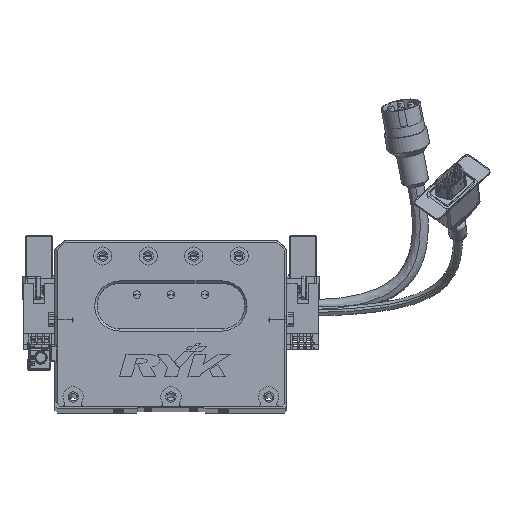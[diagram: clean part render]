
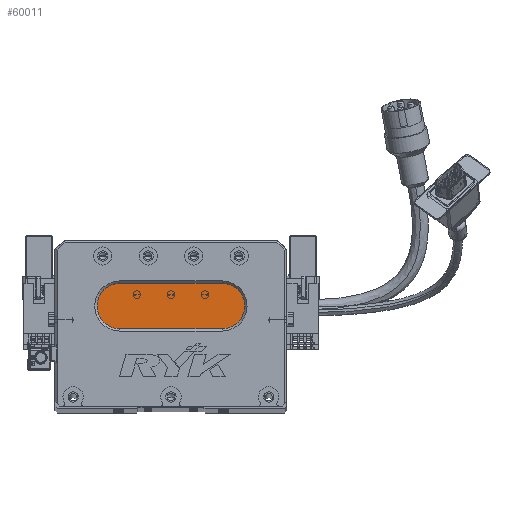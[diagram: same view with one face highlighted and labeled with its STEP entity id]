
A CAD part, top view. The second image highlights one B-rep face of the part: STEP entity #60011.
In plain terms, the highlighted planar face has unit normal (0, 0, 1) as drawn and (0, 0, -1) by its records, which use the part's own axes.
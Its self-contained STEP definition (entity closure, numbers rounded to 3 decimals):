
#1224 = DIRECTION ( 'NONE',  ( 0., 0., -1. ) ) ;
#4523 = LINE ( 'NONE', #27914, #21974 ) ;
#5595 = ORIENTED_EDGE ( 'NONE', *, *, #16332, .T. ) ;
#5930 = CARTESIAN_POINT ( 'NONE',  ( 28.5, 34., 13. ) ) ;
#7707 = LINE ( 'NONE', #38765, #65982 ) ;
#10267 = EDGE_LOOP ( 'NONE', ( #45951, #11554, #5595, #31244, #49151 ) ) ;
#10316 = DIRECTION ( 'NONE',  ( -1., 0., 0. ) ) ;
#10772 = DIRECTION ( 'NONE',  ( 0., 0., -1. ) ) ;
#11554 = ORIENTED_EDGE ( 'NONE', *, *, #42452, .T. ) ;
#13339 = FACE_OUTER_BOUND ( 'NONE', #10267, .T. ) ;
#15893 = CARTESIAN_POINT ( 'NONE',  ( 73.5, 44., 13. ) ) ;
#15922 = AXIS2_PLACEMENT_3D ( 'NONE', #15893, #31503, #31065 ) ;
#16332 = EDGE_CURVE ( 'NONE', #61725, #46531, #55336, .T. ) ;
#16988 = DIRECTION ( 'NONE',  ( -1., 0., 0. ) ) ;
#17676 = EDGE_CURVE ( 'NONE', #32326, #67173, #7707, .T. ) ;
#21644 = AXIS2_PLACEMENT_3D ( 'NONE', #59087, #1224, #16988 ) ;
#21974 = VECTOR ( 'NONE', #59998, 1000. ) ;
#22041 = PLANE ( 'NONE',  #55891 ) ;
#26694 = EDGE_CURVE ( 'NONE', #46531, #32326, #28061, .T. ) ;
#26891 = CARTESIAN_POINT ( 'NONE',  ( 73.5, 34., 13. ) ) ;
#27914 = CARTESIAN_POINT ( 'NONE',  ( 73.5, 34., 13. ) ) ;
#28061 = CIRCLE ( 'NONE', #21644, 10. ) ;
#28162 = EDGE_CURVE ( 'NONE', #67173, #43020, #52020, .T. ) ;
#28353 = DIRECTION ( 'NONE',  ( 1., 0., 0. ) ) ;
#31065 = DIRECTION ( 'NONE',  ( -1., 0., 0. ) ) ;
#31244 = ORIENTED_EDGE ( 'NONE', *, *, #26694, .T. ) ;
#31503 = DIRECTION ( 'NONE',  ( 0., 0., -1. ) ) ;
#32046 = CARTESIAN_POINT ( 'NONE',  ( 73.5, 44., 13. ) ) ;
#32326 = VERTEX_POINT ( 'NONE', #33712 ) ;
#33712 = CARTESIAN_POINT ( 'NONE',  ( 28.5, 54., 13. ) ) ;
#38765 = CARTESIAN_POINT ( 'NONE',  ( 73.5, 54., 13. ) ) ;
#41871 = CARTESIAN_POINT ( 'NONE',  ( 73.5, 54., 13. ) ) ;
#42114 = CARTESIAN_POINT ( 'NONE',  ( 18.5, 44., 13. ) ) ;
#42221 = DIRECTION ( 'NONE',  ( 0., 0., -1. ) ) ;
#42452 = EDGE_CURVE ( 'NONE', #43020, #61725, #4523, .T. ) ;
#43020 = VERTEX_POINT ( 'NONE', #26891 ) ;
#45951 = ORIENTED_EDGE ( 'NONE', *, *, #28162, .T. ) ;
#46531 = VERTEX_POINT ( 'NONE', #42114 ) ;
#47911 = AXIS2_PLACEMENT_3D ( 'NONE', #63122, #10772, #10316 ) ;
#49151 = ORIENTED_EDGE ( 'NONE', *, *, #17676, .T. ) ;
#52020 = CIRCLE ( 'NONE', #15922, 10. ) ;
#55336 = CIRCLE ( 'NONE', #47911, 10. ) ;
#55891 = AXIS2_PLACEMENT_3D ( 'NONE', #32046, #42221, #68832 ) ;
#59087 = CARTESIAN_POINT ( 'NONE',  ( 28.5, 44., 13. ) ) ;
#59998 = DIRECTION ( 'NONE',  ( -1., 0., 0. ) ) ;
#60011 = ADVANCED_FACE ( 'NONE', ( #13339 ), #22041, .T. ) ;
#61725 = VERTEX_POINT ( 'NONE', #5930 ) ;
#63122 = CARTESIAN_POINT ( 'NONE',  ( 28.5, 44., 13. ) ) ;
#65982 = VECTOR ( 'NONE', #28353, 1000. ) ;
#67173 = VERTEX_POINT ( 'NONE', #41871 ) ;
#68832 = DIRECTION ( 'NONE',  ( -1., 0., 0. ) ) ;
